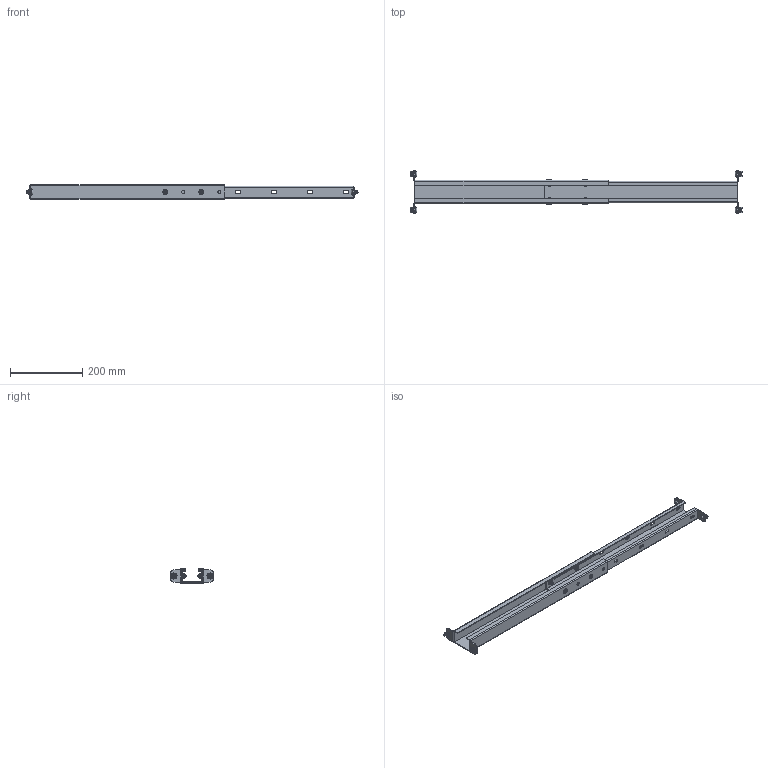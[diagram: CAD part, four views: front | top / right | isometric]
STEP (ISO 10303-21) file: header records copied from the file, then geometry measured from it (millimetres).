
FILE_DESCRIPTION(/* description */ ('Unknown'),/* implementation_level */ '2;1');
FILE_NAME(/* name */ '127.00631_01-900mm',/* time_stamp */ '2025-03-27T10:58:13+01:00',/* author */ ('Unknown'),/* organization */ ('Unknown'),/* preprocessor_version */ 'ST-DEVELOPER v20',/* originating_system */ 'Solid Edge',/* authorisation */ 'Unknown');
FILE_SCHEMA (('AUTOMOTIVE_DESIGN {1 0 10303 214 3 1 1}'));
Length unit declared in the file: millimetre
Products named in the file (9): 127.00631; 096599_2; 096600_2; Sechskantmutter M6 DIN 934; Scheibe Ø6,4 DIN 125; Halbrundkopfschraube mit Innensechskant M8x12 ISO 7380-1; Scheibe Ø8,4 DIN 125; Nutenstein M8_montiert; Halbrundkopfschraube mit Innensechskant und Bund M6x16 ISO 7380-2
Assembly tree (26 placements, depth 2):
  127.00631
    096599_2
    096600_2
    Sechskantmutter M6 DIN 934  x4
    Scheibe Ø6,4 DIN 125  x4
    Halbrundkopfschraube mit Innensechskant M8x12 ISO 7380-1  x4
    Scheibe Ø8,4 DIN 125  x4
    Nutenstein M8_montiert  x4
    Halbrundkopfschraube mit Innensechskant und Bund M6x16 ISO 7380-2  x4
Bounding box: 921 x 120 x 40 mm (x, y, z)
Volume: 418379.4 mm3; surface area: 347375.8 mm2
Topology: 26 solids, 26 shells, 828 faces, 2158 edges, 1394 vertices
Faces by surface type: plane 408, cylinder 276, torus 72, bspline 48, cone 20, sphere 4
Full cylindrical faces by diameter (mm): 6 x8, 6.4 x4, 6.647 x4, 8 x4, 8.5 x16, 12 x4, 13.6 x4, 14 x4, 16.8 x4
Entity records: 11194 total; most frequent: CARTESIAN_POINT 2555, ORIENTED_EDGE 1618, DIRECTION 1610, EDGE_CURVE 809, AXIS2_PLACEMENT_3D 565, VERTEX_POINT 545, LINE 480, VECTOR 480
